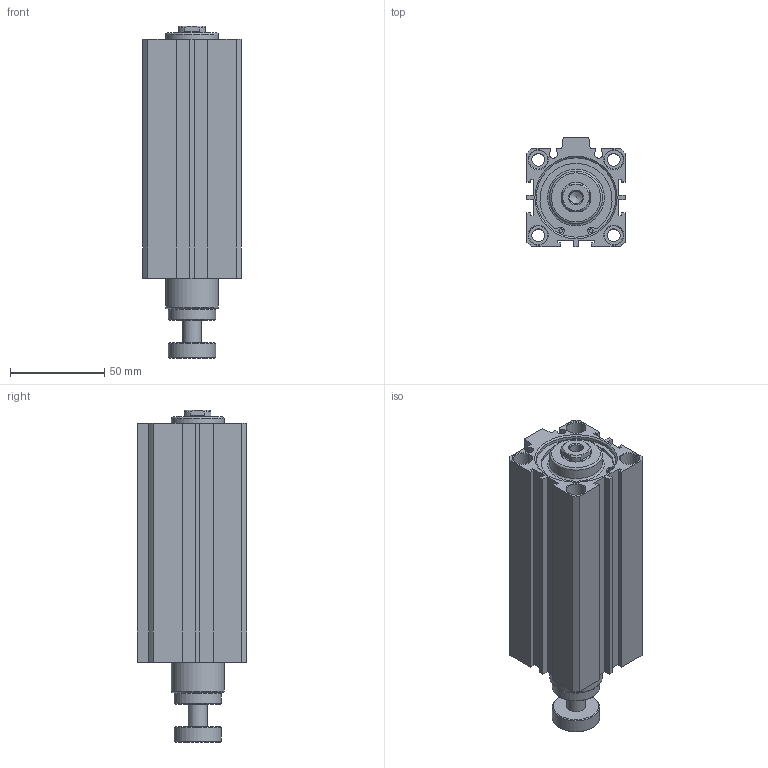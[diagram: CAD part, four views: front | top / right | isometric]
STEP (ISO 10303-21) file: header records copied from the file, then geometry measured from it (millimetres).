
FILE_DESCRIPTION((''),'2;1');
FILE_NAME('I:\3D電子目錄\氣缸\JDAR\JDAR\JDAR40\JDAR40x100.stp','2007-03-14T10:38:45',('662F206'),(''),'Autodesk Inventor 11','Autodesk Inventor 11','');
FILE_SCHEMA(('AUTOMOTIVE_DESIGN { 1 0 10303 214 1 1 1 1 }'));
Length unit declared in the file: millimetre
Products named in the file (3): JDAR40; R 形環 42
Assembly tree (3 placements, depth 2):
  JDAR40
    JDAR40
    R 形環 42  x2
Bounding box: 52 x 58 x 175.8 mm (x, y, z)
Volume: 319343.7 mm3; surface area: 62755.9 mm2
Topology: 3 solids, 3 shells, 172 faces, 405 edges, 263 vertices
Faces by surface type: plane 92, cylinder 51, cone 23, bspline 4, torus 2
Full cylindrical faces by diameter (mm): 1.9 x4, 2.2 x2, 6.8 x4, 10 x9, 25 x2, 28 x2, 42 x4, 44.5 x2
Entity records: 4475 total; most frequent: CARTESIAN_POINT 858, DIRECTION 758, ORIENTED_EDGE 634, EDGE_CURVE 317, AXIS2_PLACEMENT_3D 287, EDGE_LOOP 248, VERTEX_POINT 237, VECTOR 184
